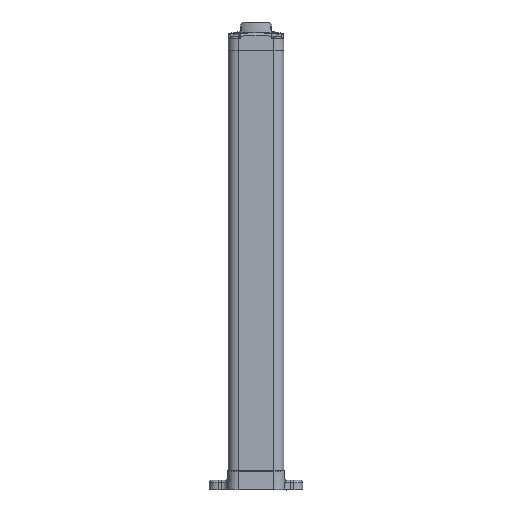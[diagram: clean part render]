
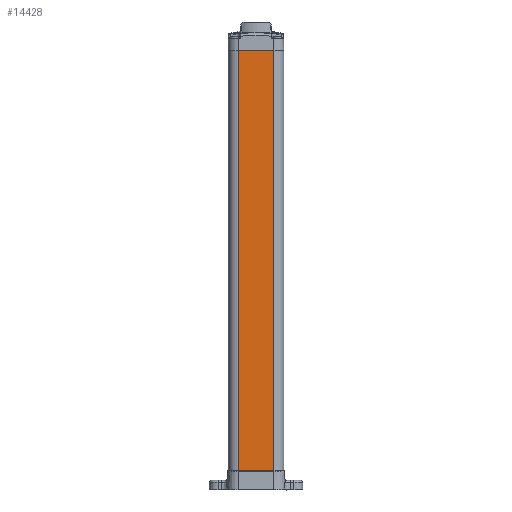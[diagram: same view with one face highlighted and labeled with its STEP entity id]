
A CAD part, front view. The second image highlights one B-rep face of the part: STEP entity #14428.
In plain terms, the highlighted planar face has unit normal (0, -1, 0).
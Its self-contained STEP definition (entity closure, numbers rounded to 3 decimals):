
#1102=PLANE('',#30578);
#1844=FACE_OUTER_BOUND('',#15522,.T.);
#2851=LINE('',#55657,#3814);
#2852=LINE('',#55660,#3815);
#2853=LINE('',#55662,#3816);
#2854=LINE('',#55664,#3817);
#3814=VECTOR('',#34391,1.);
#3815=VECTOR('',#34392,1.);
#3816=VECTOR('',#34393,1.);
#3817=VECTOR('',#34394,1.);
#14428=ADVANCED_FACE('',(#1844),#1102,.T.);
#15522=EDGE_LOOP('',(#19385,#19386,#19387,#19388));
#19385=ORIENTED_EDGE('',*,*,#27783,.T.);
#19386=ORIENTED_EDGE('',*,*,#27784,.T.);
#19387=ORIENTED_EDGE('',*,*,#27785,.T.);
#19388=ORIENTED_EDGE('',*,*,#27786,.T.);
#23584=VERTEX_POINT('',#55658);
#23585=VERTEX_POINT('',#55659);
#23586=VERTEX_POINT('',#55661);
#23587=VERTEX_POINT('',#55663);
#27783=EDGE_CURVE('',#23584,#23585,#2851,.T.);
#27784=EDGE_CURVE('',#23585,#23586,#2852,.T.);
#27785=EDGE_CURVE('',#23586,#23587,#2853,.T.);
#27786=EDGE_CURVE('',#23587,#23584,#2854,.T.);
#30578=AXIS2_PLACEMENT_3D('',#55665,#34395,#34396);
#34391=DIRECTION('',(1.,0.,0.));
#34392=DIRECTION('',(0.,0.,1.));
#34393=DIRECTION('',(-1.,0.,0.));
#34394=DIRECTION('',(0.,0.,-1.));
#34395=DIRECTION('',(0.,-1.,0.));
#34396=DIRECTION('',(1.,0.,0.));
#55657=CARTESIAN_POINT('',(-43.297,-127.634,-29.313));
#55658=CARTESIAN_POINT('',(-54.297,-127.634,-29.313));
#55659=CARTESIAN_POINT('',(-32.297,-127.634,-29.313));
#55660=CARTESIAN_POINT('',(-32.297,-127.634,102.687));
#55661=CARTESIAN_POINT('',(-32.297,-127.634,234.687));
#55662=CARTESIAN_POINT('',(-43.297,-127.634,234.687));
#55663=CARTESIAN_POINT('',(-54.297,-127.634,234.687));
#55664=CARTESIAN_POINT('',(-54.297,-127.634,102.687));
#55665=CARTESIAN_POINT('',(-54.297,-127.634,-29.313));
